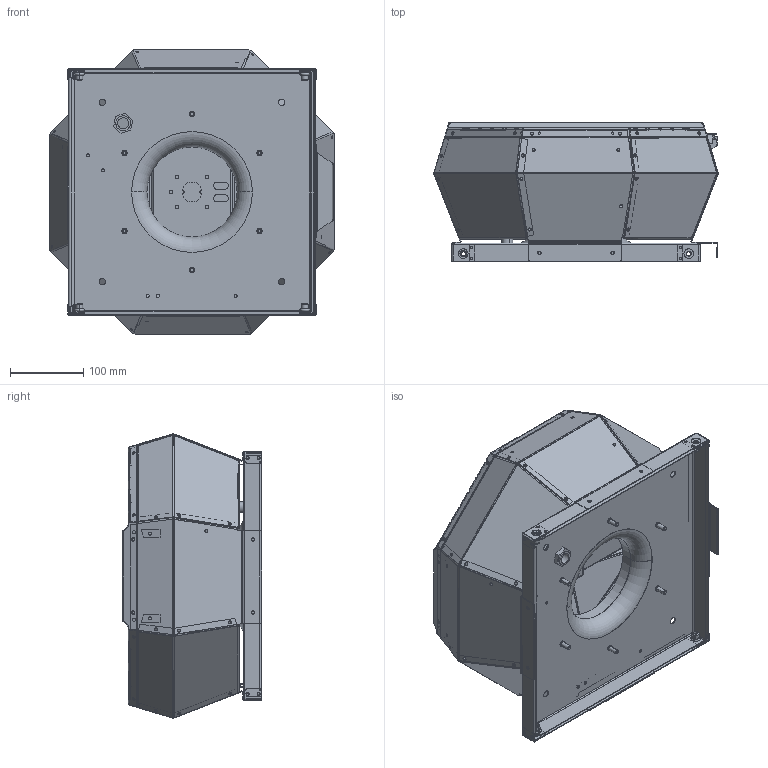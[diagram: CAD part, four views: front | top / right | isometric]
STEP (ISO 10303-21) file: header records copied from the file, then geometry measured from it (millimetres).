
FILE_DESCRIPTION (( 'STEP AP203' ), '1' );
FILE_NAME ('165142_00_DVA190ECORK01_step.step', '2022-10-12T12:17:14', ( '' ), ( '' ), 'SwSTEP 2.0', 'SolidWorks 2021', '' );
FILE_SCHEMA (( 'CONFIG_CONTROL_DESIGN' ));
Length unit declared in the file: millimetre
Products named in the file (1): 165142_00_DVA190ECORK01_step
Bounding box: 388.45 x 190.18 x 388.42 mm (x, y, z)
Surface area: 1181547.4 mm2 (no closed solid volume)
Topology: 0 solids, 63 shells, 2048 faces, 6528 edges, 4392 vertices
Faces by surface type: plane 1261, cylinder 632, bspline 98, torus 37, cone 20
Entity records: 74485 total; most frequent: CARTESIAN_POINT 16799, DIRECTION 11394, ORIENTED_EDGE 11109, EDGE_CURVE 6528, VECTOR 4594, LINE 4594, VERTEX_POINT 4392, AXIS2_PLACEMENT_3D 3400
